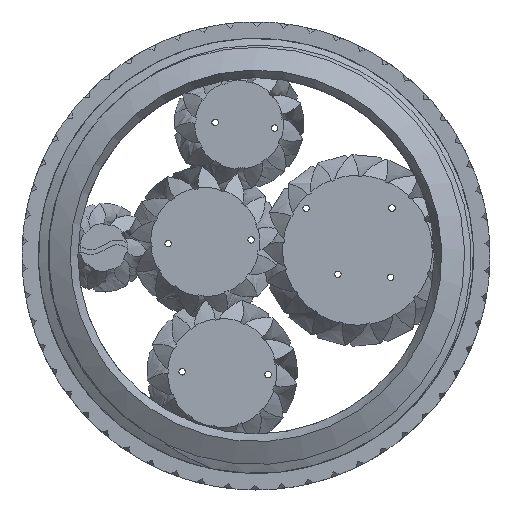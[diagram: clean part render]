
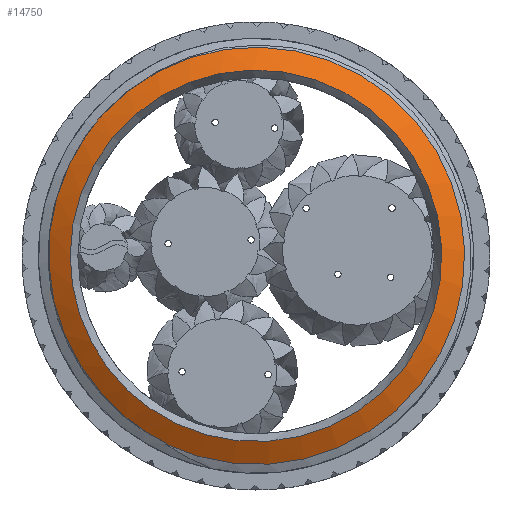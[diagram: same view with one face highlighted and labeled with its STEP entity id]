
A CAD part, top view. The second image highlights one B-rep face of the part: STEP entity #14750.
In plain terms, the highlighted conical face has half-angle 60 degrees and reference radius 31.609 mm.
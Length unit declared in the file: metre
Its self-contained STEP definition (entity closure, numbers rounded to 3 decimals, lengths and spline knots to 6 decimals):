
#1767=CIRCLE('',#15716,0.0355);
#1770=CIRCLE('',#15722,0.031609);
#5926=ORIENTED_EDGE('',*,*,#8632,.T.);
#5927=ORIENTED_EDGE('',*,*,#8108,.T.);
#5928=ORIENTED_EDGE('',*,*,#8105,.T.);
#5929=ORIENTED_EDGE('',*,*,#8112,.F.);
#5930=ORIENTED_EDGE('',*,*,#8745,.F.);
#8105=EDGE_CURVE('',#9989,#9988,#11179,.T.);
#8108=EDGE_CURVE('',#9990,#9989,#11181,.F.);
#8112=EDGE_CURVE('',#9991,#9988,#11185,.F.);
#8632=EDGE_CURVE('',#9991,#9990,#1767,.T.);
#8745=EDGE_CURVE('',#10384,#10384,#1770,.T.);
#9988=VERTEX_POINT('',#108712);
#9989=VERTEX_POINT('',#108728);
#9990=VERTEX_POINT('',#109010);
#9991=VERTEX_POINT('',#109138);
#10384=VERTEX_POINT('',#114859);
#11179=B_SPLINE_CURVE_WITH_KNOTS('',3,(#108713,#108714,#108715,#108716,
#108717,#108718,#108719,#108720,#108721,#108722,#108723,#108724,#108725,
#108726,#108727),.UNSPECIFIED.,.F.,.F.,(4,1,1,1,1,1,1,1,1,1,1,1,4),(0.062539,
0.069559,0.07658,0.083601,0.090621,
0.094132,0.097642,0.101152,0.104663,
0.108173,0.111683,0.115193,0.118704),
 .UNSPECIFIED.);
#11181=B_SPLINE_CURVE_WITH_KNOTS('',3,(#109005,#109006,#109007,#109008,
#109009),.UNSPECIFIED.,.F.,.F.,(4,1,4),(0.43739,0.442476,
0.447562),.UNSPECIFIED.);
#11185=B_SPLINE_CURVE_WITH_KNOTS('',3,(#109139,#109140,#109141,#109142),
 .UNSPECIFIED.,.F.,.F.,(4,4),(0.0075,0.007643),
 .UNSPECIFIED.);
#12710=EDGE_LOOP('',(#5926,#5927,#5928,#5929));
#12711=EDGE_LOOP('',(#5930));
#13692=FACE_BOUND('',#12710,.T.);
#13693=FACE_BOUND('',#12711,.T.);
#13950=CONICAL_SURFACE('',#15723,0.031609,1.047);
#14750=ADVANCED_FACE('',(#13692,#13693),#13950,.T.);
#15716=AXIS2_PLACEMENT_3D('',#114328,#17399,#17400);
#15722=AXIS2_PLACEMENT_3D('',#114858,#17411,#17412);
#15723=AXIS2_PLACEMENT_3D('',#114860,#17413,#17414);
#17399=DIRECTION('',(0.,0.,1.));
#17400=DIRECTION('',(-1.,0.,0.));
#17411=DIRECTION('',(0.,0.,1.));
#17412=DIRECTION('',(-1.,0.,0.));
#17413=DIRECTION('',(0.,0.,-1.));
#17414=DIRECTION('',(1.,0.,0.));
#108712=CARTESIAN_POINT('',(-0.015284,-0.031904,0.062871));
#108713=CARTESIAN_POINT('',(-0.031768,0.015565,0.062871));
#108714=CARTESIAN_POINT('',(-0.032778,0.013454,0.062884));
#108715=CARTESIAN_POINT('',(-0.03438,0.009018,0.062906));
#108716=CARTESIAN_POINT('',(-0.035436,0.00218,0.062931));
#108717=CARTESIAN_POINT('',(-0.035137,-0.004867,0.062948));
#108718=CARTESIAN_POINT('',(-0.033774,-0.010465,0.06296));
#108719=CARTESIAN_POINT('',(-0.032012,-0.014813,0.062964));
#108720=CARTESIAN_POINT('',(-0.030401,-0.01788,0.062966));
#108721=CARTESIAN_POINT('',(-0.028506,-0.020776,0.062964));
#108722=CARTESIAN_POINT('',(-0.026307,-0.023511,0.06296));
#108723=CARTESIAN_POINT('',(-0.023868,-0.026002,0.062951));
#108724=CARTESIAN_POINT('',(-0.021222,-0.028231,0.062937));
#108725=CARTESIAN_POINT('',(-0.018366,-0.030214,0.062915));
#108726=CARTESIAN_POINT('',(-0.01632,-0.031362,0.062895));
#108727=CARTESIAN_POINT('',(-0.015284,-0.031904,0.062871));
#108728=CARTESIAN_POINT('',(-0.031768,0.015565,0.062871));
#109005=CARTESIAN_POINT('',(-0.031768,0.015565,0.062871));
#109006=CARTESIAN_POINT('',(-0.031042,0.017093,0.06286));
#109007=CARTESIAN_POINT('',(-0.029354,0.020074,0.062835));
#109008=CARTESIAN_POINT('',(-0.027276,0.022754,0.062812));
#109009=CARTESIAN_POINT('',(-0.026136,0.024024,0.0628));
#109010=CARTESIAN_POINT('',(-0.026136,0.024024,0.0628));
#109138=CARTESIAN_POINT('',(-0.015338,-0.032016,0.0628));
#109139=CARTESIAN_POINT('',(-0.015284,-0.031904,0.062871));
#109140=CARTESIAN_POINT('',(-0.015302,-0.031941,0.062848));
#109141=CARTESIAN_POINT('',(-0.01532,-0.031978,0.062824));
#109142=CARTESIAN_POINT('',(-0.015338,-0.032016,0.0628));
#114328=CARTESIAN_POINT('',(0.,0.,0.0628));
#114858=CARTESIAN_POINT('',(0.,0.,0.065046));
#114859=CARTESIAN_POINT('',(-0.031609,0.,0.065046));
#114860=CARTESIAN_POINT('',(0.,0.,0.065046));
